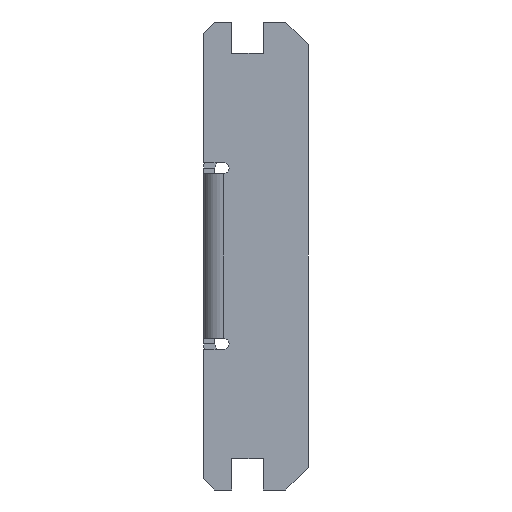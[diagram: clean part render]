
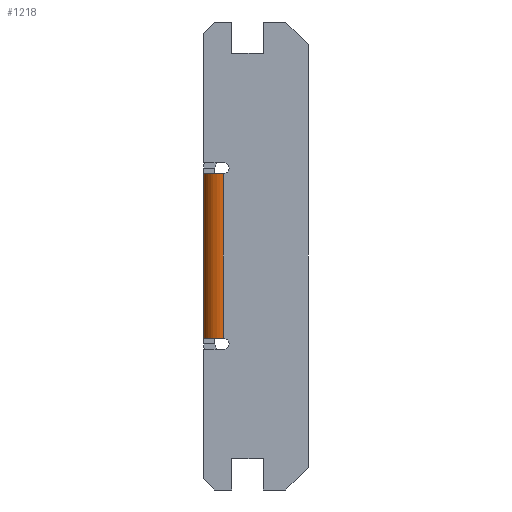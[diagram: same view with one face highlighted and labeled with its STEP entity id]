
A CAD part, front view. The second image highlights one B-rep face of the part: STEP entity #1218.
In plain terms, the highlighted cylindrical face has radius 3.5 mm (diameter 7 mm), a partial arc.
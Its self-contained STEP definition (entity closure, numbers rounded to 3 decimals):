
#327 = CARTESIAN_POINT ( 'NONE',  ( 3.5, -339.5, -14.5 ) ) ;
#328 = DIRECTION ( 'NONE',  ( 0., 0., -1. ) ) ;
#329 = DIRECTION ( 'NONE',  ( 0., -1., 0. ) ) ;
#1218 = ADVANCED_FACE ( 'NONE', ( #13037 ), #13036, .T. ) ;
#3132 = CIRCLE ( 'NONE', #5129, 3.5 ) ;
#3134 = CIRCLE ( 'NONE', #5131, 3.5 ) ;
#4095 = VECTOR ( 'NONE', #6574, 1000. ) ;
#5129 = AXIS2_PLACEMENT_3D ( 'NONE', #9694, #9695, #9696 ) ;
#5131 = AXIS2_PLACEMENT_3D ( 'NONE', #9703, #9704, #9705 ) ;
#5170 = VECTOR ( 'NONE', #9795, 1000. ) ;
#6572 = LINE ( 'NONE', #6573, #4095 ) ;
#6573 = CARTESIAN_POINT ( 'NONE',  ( 0., -339.5, -14.5 ) ) ;
#6574 = DIRECTION ( 'NONE',  ( 0., 0., 1. ) ) ;
#7545 = CARTESIAN_POINT ( 'NONE',  ( 0., -339.5, -14.5 ) ) ;
#7546 = CARTESIAN_POINT ( 'NONE',  ( 0., -339.5, 14.5 ) ) ;
#7650 = ORIENTED_EDGE ( 'NONE', *, *, #15838, .F. ) ;
#7651 = ORIENTED_EDGE ( 'NONE', *, *, #15803, .F. ) ;
#7653 = ORIENTED_EDGE ( 'NONE', *, *, #15806, .F. ) ;
#7656 = ORIENTED_EDGE ( 'NONE', *, *, #12741, .F. ) ;
#8479 = CARTESIAN_POINT ( 'NONE',  ( 3.5, -343., 14.5 ) ) ;
#8562 = CARTESIAN_POINT ( 'NONE',  ( 3.5, -343., -14.5 ) ) ;
#9694 = CARTESIAN_POINT ( 'NONE',  ( 3.5, -339.5, -14.5 ) ) ;
#9695 = DIRECTION ( 'NONE',  ( 0., 0., -1. ) ) ;
#9696 = DIRECTION ( 'NONE',  ( -1., 0., 0. ) ) ;
#9703 = CARTESIAN_POINT ( 'NONE',  ( 3.5, -339.5, 14.5 ) ) ;
#9704 = DIRECTION ( 'NONE',  ( 0., 0., 1. ) ) ;
#9705 = DIRECTION ( 'NONE',  ( -1., 0., 0. ) ) ;
#9793 = LINE ( 'NONE', #9794, #5170 ) ;
#9794 = CARTESIAN_POINT ( 'NONE',  ( 3.5, -343., -14.5 ) ) ;
#9795 = DIRECTION ( 'NONE',  ( 0., 0., -1. ) ) ;
#12741 = EDGE_CURVE ( 'NONE', #14982, #14983, #6572, .T. ) ;
#13036 = CYLINDRICAL_SURFACE ( 'NONE', #13041, 3.5 ) ;
#13037 = FACE_OUTER_BOUND ( 'NONE', #15426, .T. ) ;
#13041 = AXIS2_PLACEMENT_3D ( 'NONE', #327, #328, #329 ) ;
#14982 = VERTEX_POINT ( 'NONE', #7545 ) ;
#14983 = VERTEX_POINT ( 'NONE', #7546 ) ;
#15042 = VERTEX_POINT ( 'NONE', #8479 ) ;
#15127 = VERTEX_POINT ( 'NONE', #8562 ) ;
#15426 = EDGE_LOOP ( 'NONE', ( #7656, #7651, #7650, #7653 ) ) ;
#15803 = EDGE_CURVE ( 'NONE', #15127, #14982, #3132, .T. ) ;
#15806 = EDGE_CURVE ( 'NONE', #14983, #15042, #3134, .T. ) ;
#15838 = EDGE_CURVE ( 'NONE', #15042, #15127, #9793, .T. ) ;
